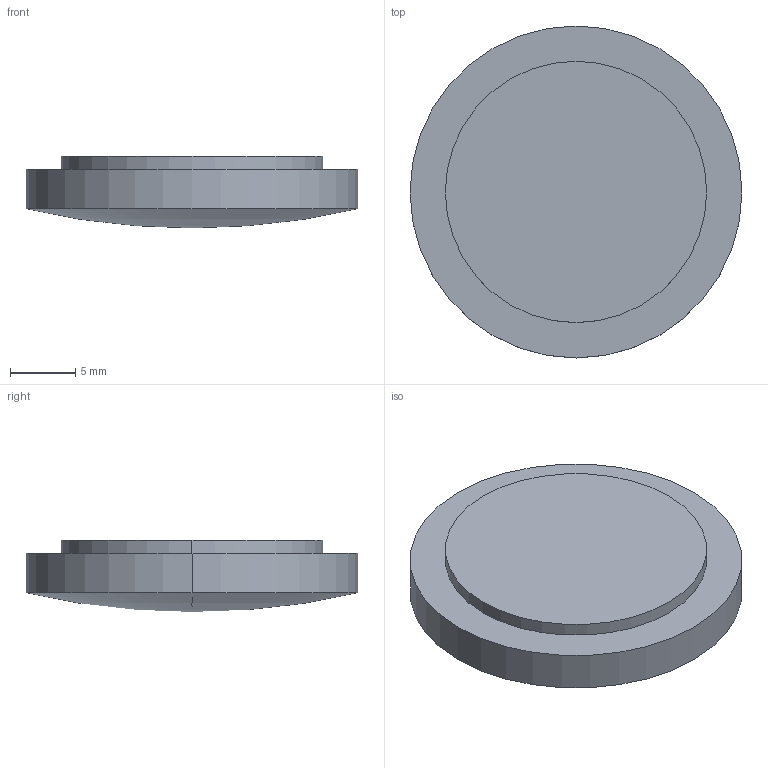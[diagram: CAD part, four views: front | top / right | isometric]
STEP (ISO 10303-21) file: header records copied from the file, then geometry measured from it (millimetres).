
FILE_DESCRIPTION(('STEP AP214'),'1');
FILE_NAME('LL-25-80.STEP','2020-03-09T17:41:12',(' '),(' '),'Spatial InterOp 3D',' ',' ');
FILE_SCHEMA(('AUTOMOTIVE_DESIGN { 1 0 10303 214 1 1 1 1 }'));
Length unit declared in the file: millimetre
Products named in the file (1): 1
Bounding box: 25.4 x 25.4 x 5.5 mm (x, y, z)
Volume: 2224.8 mm3; surface area: 1953.5 mm2
Topology: 2 solids, 2 shells, 9 faces, 16 edges, 9 vertices
Faces by surface type: cylinder 4, plane 3, sphere 2
Entity records: 229 total; most frequent: DIRECTION 46, CARTESIAN_POINT 34, ORIENTED_EDGE 28, AXIS2_PLACEMENT_3D 21, EDGE_CURVE 14, CIRCLE 10, ADVANCED_FACE 9, FACE_OUTER_BOUND 9
